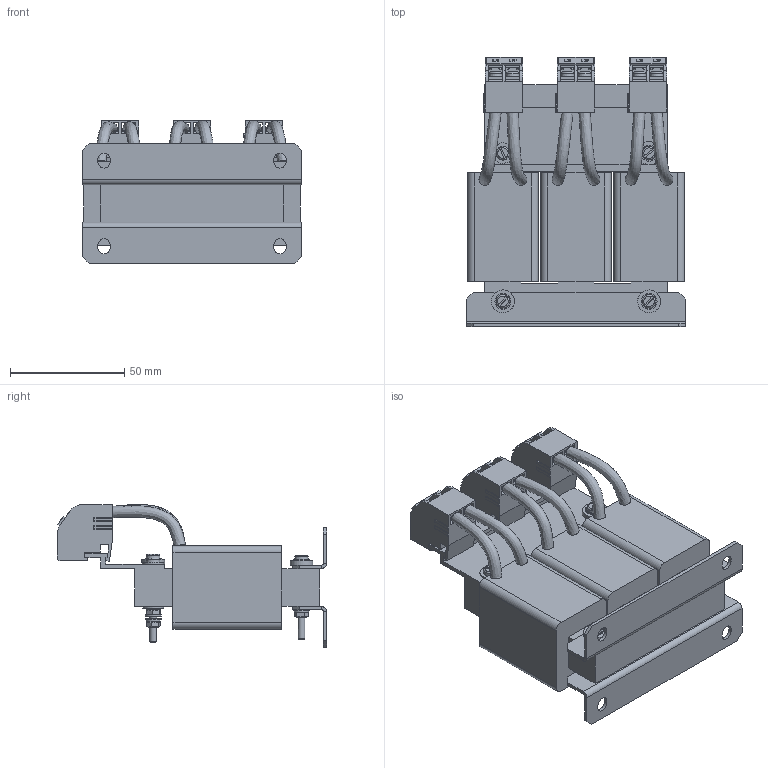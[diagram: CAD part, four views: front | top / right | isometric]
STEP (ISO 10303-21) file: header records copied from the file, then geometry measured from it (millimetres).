
FILE_DESCRIPTION(/* description */ ('raw material description'),/* implementation_level */ '2;1');
FILE_NAME(/* name */ 'P:\Construction\Filter_Marketing\RWK\RWK3044_RWK3062\RWK3044-3.5-88-E0XXX.stp',/* time_stamp */ '2018-08-27T09:43:37+02:00',/* author */ ('Erika.Jenzer'),/* organization */ ('Schaffner EMV AG'),/* preprocessor_version */ 'ST-DEVELOPER v16.5',/* originating_system */ 'Autodesk Inventor 2017',/* authorisation */ '');
FILE_SCHEMA (('AUTOMOTIVE_DESIGN { 1 0 10303 214 3 1 1 }'));
Products named in the file (1): RWK3044-3.5-88-E0XXX
Bounding box: 96 x 117.85 x 62.55 mm (x, y, z)
Volume: 241389.5 mm3; surface area: 68618.3 mm2
Topology: 1 solids, 9 shells, 1774 faces, 4912 edges, 3191 vertices
Faces by surface type: plane 1431, cylinder 188, bspline 62, cone 49, sphere 24, torus 20
Full cylindrical faces by diameter (mm): 3 x19, 3.1 x4, 3.2 x10, 3.4 x1, 4.2 x3, 4.5 x5, 5.7 x6, 6 x1, 7 x8, 9 x2, 10 x3, 13 x1
Entity records: 60495 total; most frequent: CARTESIAN_POINT 13762, ORIENTED_EDGE 9490, DIRECTION 8986, EDGE_CURVE 4745, LINE 3450, VECTOR 3450, VERTEX_POINT 3136, AXIS2_PLACEMENT_3D 2768
